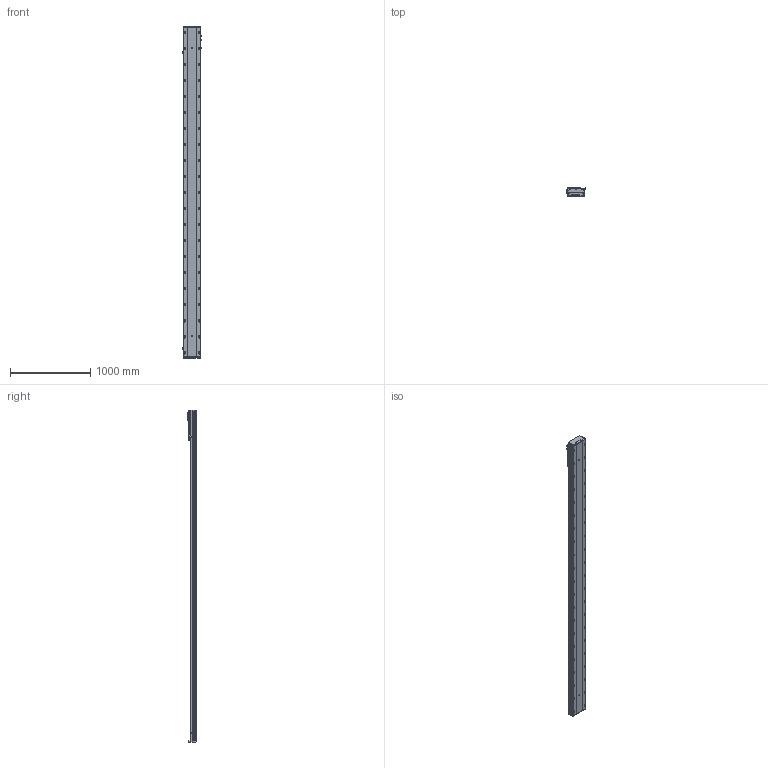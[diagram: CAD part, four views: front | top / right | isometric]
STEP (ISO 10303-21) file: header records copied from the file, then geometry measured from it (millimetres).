
FILE_DESCRIPTION (( 'STEP AP203' ), '1' );
FILE_NAME ('BEH22-A-M2-3700-L1-¦Õ22-PCD100-M6-C3.STEP', '2022-06-21T06:15:30', ( 'CXY' ), ( 'BT' ), 'SwSTEP 2.0', 'SolidWorks 2016', '' );
FILE_SCHEMA (( 'CONFIG_CONTROL_DESIGN' ));
Length unit declared in the file: millimetre
Products named in the file (12): BEH22-B-01-XX-2; BEH22-07-PCD100-80-M6; FS-01-10（10毫米）; PM-T65; BEH22-04-F; FS-25-6.66-M2-H22K6; 萇儂階踡輸; BTH22-07-DZ; BEH22-A-M2-3700-L1-耳22-PCD100-M6-C3; BEH22-04-01_L; _G-M6; FS-02-BTH22
Assembly tree (18 placements, depth 3):
  BEH22-A-M2-3700-L1-耳22-PCD100-M6-C3
    BEH22-B-01-XX-2
    BTH22-07-DZ  x2
    PM-T65  x2
    BEH22-04-01_L
      BEH22-04-F
      萇儂階踡輸
      _G-M6  x3
      FS-02-BTH22
      FS-01-10（10毫米）  x4
      BEH22-07-PCD100-80-M6
      FS-25-6.66-M2-H22K6
Bounding box: 247.7 x 111 x 4148 mm (x, y, z)
Volume: 42718019 mm3; surface area: 4148122.3 mm2
Topology: 21 solids, 21 shells, 2598 faces, 7702 edges, 5014 vertices
Faces by surface type: cylinder 1368, plane 938, cone 233, bspline 37, torus 22
Entity records: 477622 total; most frequent: CARTESIAN_POINT 418327, ORIENTED_EDGE 13224, DIRECTION 10988, EDGE_CURVE 6612, VERTEX_POINT 4374, AXIS2_PLACEMENT_3D 4002, LINE 2984, VECTOR 2984
